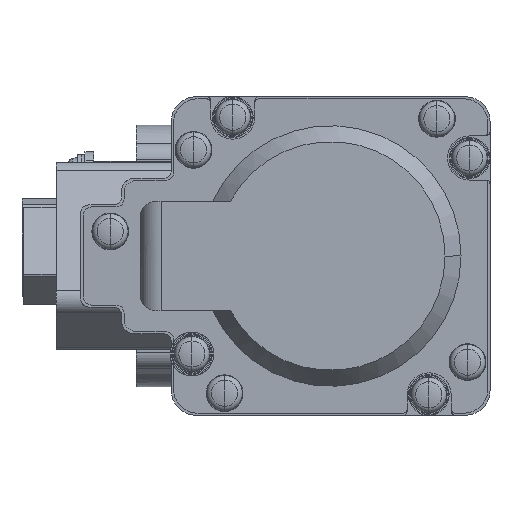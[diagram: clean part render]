
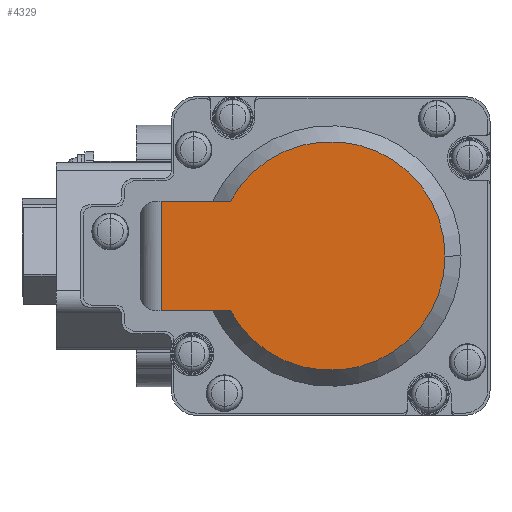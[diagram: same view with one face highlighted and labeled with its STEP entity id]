
A CAD part, left-side view. The second image highlights one B-rep face of the part: STEP entity #4329.
In plain terms, the highlighted planar face has unit normal (-1, 0, 0).
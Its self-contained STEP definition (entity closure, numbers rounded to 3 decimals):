
#4329 = ADVANCED_FACE( '', ( #12232 ), #12233, .T. );
#5887 = EDGE_CURVE( '', #8947, #7303, #13963, .T. );
#5963 = VERTEX_POINT( '', #14042 );
#7077 = EDGE_CURVE( '', #7303, #9469, #15268, .T. );
#7303 = VERTEX_POINT( '', #15522 );
#7701 = EDGE_CURVE( '', #5963, #11755, #15979, .T. );
#8147 = EDGE_CURVE( '', #9469, #5963, #16461, .T. );
#8947 = VERTEX_POINT( '', #17343 );
#9469 = VERTEX_POINT( '', #17913 );
#9625 = EDGE_CURVE( '', #11755, #8947, #18087, .T. );
#11755 = VERTEX_POINT( '', #20440 );
#12232 = FACE_OUTER_BOUND( '', #21057, .T. );
#12233 = PLANE( '', #21058 );
#13963 = CIRCLE( '', #23394, 14. );
#14042 = CARTESIAN_POINT( '', ( -125., 20.75, 6.7 ) );
#15268 = CIRCLE( '', #25264, 14. );
#15522 = CARTESIAN_POINT( '', ( -125., -14., 0. ) );
#15979 = LINE( '', #26259, #26260 );
#16461 = LINE( '', #26907, #26908 );
#17343 = CARTESIAN_POINT( '', ( -125., 12.293, -6.7 ) );
#17913 = CARTESIAN_POINT( '', ( -125., 12.293, 6.7 ) );
#18087 = LINE( '', #29189, #29190 );
#20440 = CARTESIAN_POINT( '', ( -125., 20.75, -6.7 ) );
#21057 = EDGE_LOOP( '', ( #33040, #33041, #33042, #33043, #33044 ) );
#21058 = AXIS2_PLACEMENT_3D( '', #33045, #33046, #33047 );
#23394 = AXIS2_PLACEMENT_3D( '', #35056, #35057, #35058 );
#25264 = AXIS2_PLACEMENT_3D( '', #36467, #36468, #36469 );
#26259 = CARTESIAN_POINT( '', ( -125., 20.75, 15. ) );
#26260 = VECTOR( '', #37393, 1. );
#26907 = CARTESIAN_POINT( '', ( -125., 21.05, 6.7 ) );
#26908 = VECTOR( '', #37890, 1. );
#29189 = CARTESIAN_POINT( '', ( -125., 15.907, -6.7 ) );
#29190 = VECTOR( '', #39728, 1. );
#33040 = ORIENTED_EDGE( '', *, *, #8147, .T. );
#33041 = ORIENTED_EDGE( '', *, *, #7701, .T. );
#33042 = ORIENTED_EDGE( '', *, *, #9625, .T. );
#33043 = ORIENTED_EDGE( '', *, *, #5887, .T. );
#33044 = ORIENTED_EDGE( '', *, *, #7077, .T. );
#33045 = CARTESIAN_POINT( '', ( -125., 20.75, 15. ) );
#33046 = DIRECTION( '', ( -1., 0., 0. ) );
#33047 = DIRECTION( '', ( 0., 1., 0. ) );
#35056 = CARTESIAN_POINT( '', ( -125., 0., 0. ) );
#35057 = DIRECTION( '', ( -1., 0., 0. ) );
#35058 = DIRECTION( '', ( 0., 1., 0. ) );
#36467 = CARTESIAN_POINT( '', ( -125., 0., 0. ) );
#36468 = DIRECTION( '', ( -1., 0., 0. ) );
#36469 = DIRECTION( '', ( 0., 1., 0. ) );
#37393 = DIRECTION( '', ( 0., 0., -1. ) );
#37890 = DIRECTION( '', ( 0., 1., 0. ) );
#39728 = DIRECTION( '', ( 0., -1., 0. ) );
